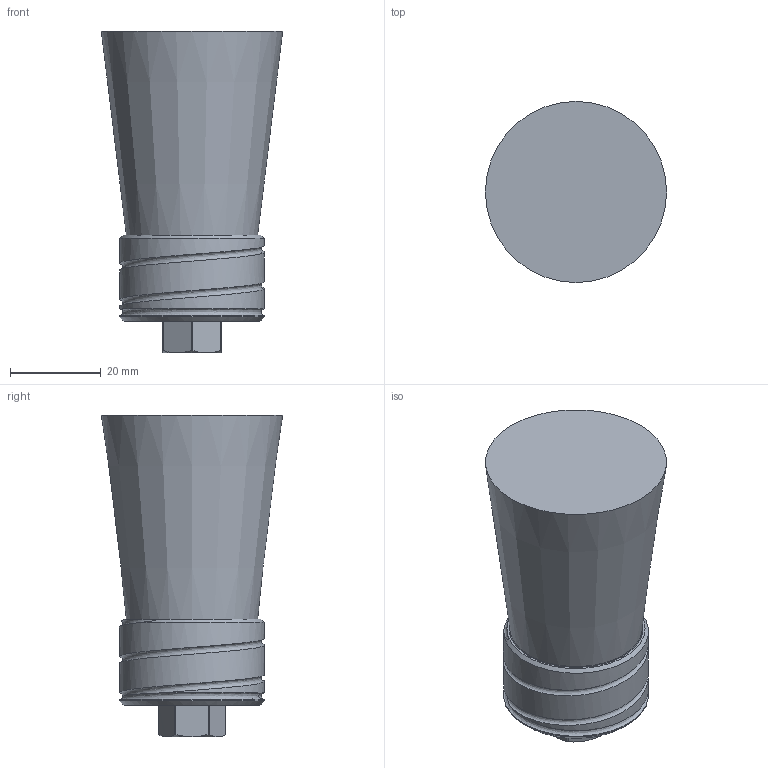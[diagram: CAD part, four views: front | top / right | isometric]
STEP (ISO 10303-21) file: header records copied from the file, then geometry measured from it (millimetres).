
FILE_DESCRIPTION (( 'STEP AP214' ), '1' );
FILE_NAME ('012_0130_0145_50.STEP', '2026-01-14T15:36:03', ( '' ), ( '' ), 'SwSTEP 2.0', 'SolidWorks 2022', '' );
FILE_SCHEMA (( 'AUTOMOTIVE_DESIGN' ));
Length unit declared in the file: millimetre
Products named in the file (1): 012_0130_0145_50
Bounding box: 40 x 40 x 71 mm (x, y, z)
Volume: 57858.3 mm3; surface area: 9745.9 mm2
Topology: 1 solids, 1 shells, 38 faces, 98 edges, 64 vertices
Faces by surface type: cone 12, cylinder 11, plane 11, bspline 4
Full cylindrical faces by diameter (mm): 2 x1, 8.57 x1, 29 x1, 32 x1
Entity records: 2569 total; most frequent: CARTESIAN_POINT 1767, ORIENTED_EDGE 154, DIRECTION 126, EDGE_CURVE 77, VERTEX_POINT 56, AXIS2_PLACEMENT_3D 54, EDGE_LOOP 49, FACE_OUTER_BOUND 41
